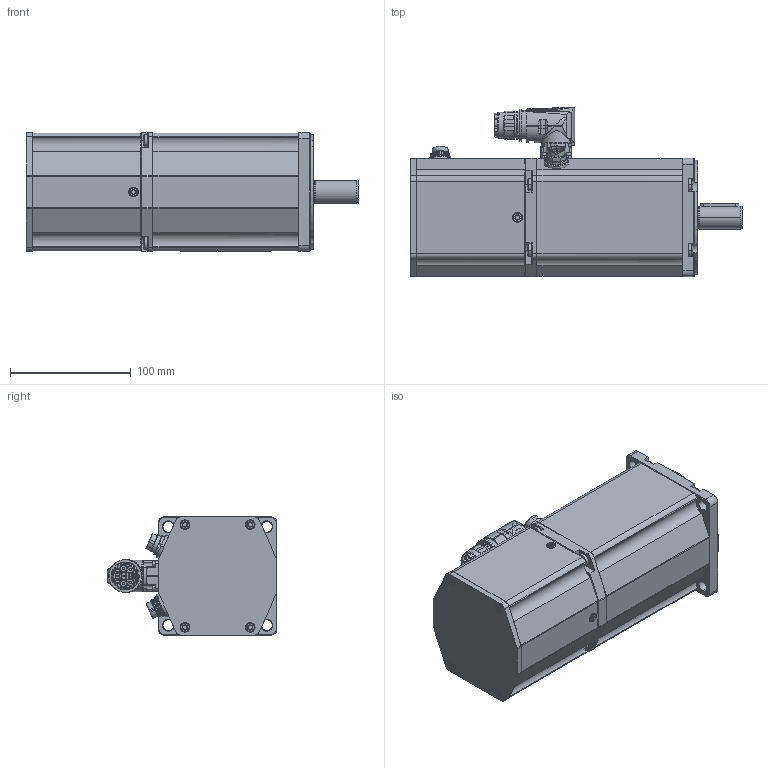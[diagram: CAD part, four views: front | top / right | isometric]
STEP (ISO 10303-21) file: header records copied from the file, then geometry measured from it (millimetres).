
FILE_DESCRIPTION((''),'2;1');
FILE_NAME('9659502799_SW0001','2018-10-04T',('HMeister'),(''),'CREO PARAMETRIC BY PTC INC, 2016050','CREO PARAMETRIC BY PTC INC, 2016050','');
FILE_SCHEMA(('CONFIG_CONTROL_DESIGN'));
Products named in the file (1): 9659502799_SW0001
Bounding box: 274.5 x 140.3 x 98 mm (x, y, z)
Volume: 849850.4 mm3; surface area: 244968.8 mm2
Topology: 3 solids, 6 shells, 2274 faces, 5587 edges, 3453 vertices
Faces by surface type: cylinder 894, plane 559, cone 340, torus 271, bspline 174, sphere 36
Entity records: 79994 total; most frequent: CARTESIAN_POINT 26615, DIRECTION 11499, ORIENTED_EDGE 11062, EDGE_CURVE 5531, AXIS2_PLACEMENT_3D 4725, VERTEX_POINT 3450, CIRCLE 2625, EDGE_LOOP 2487
